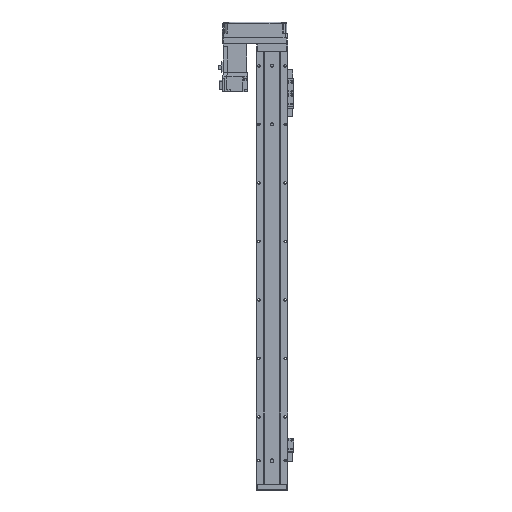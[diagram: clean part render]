
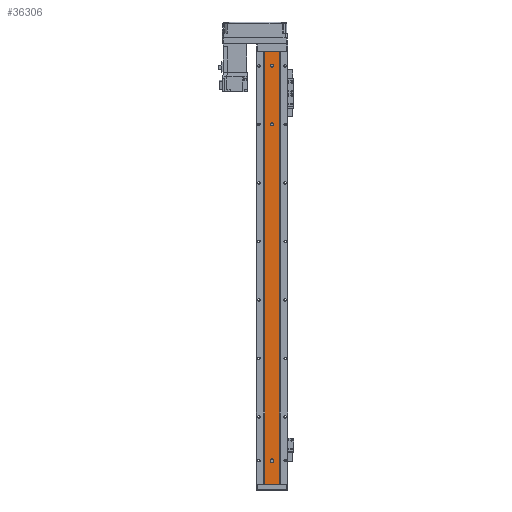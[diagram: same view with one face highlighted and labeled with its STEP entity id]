
A CAD part, front view. The second image highlights one B-rep face of the part: STEP entity #36306.
In plain terms, the highlighted planar face has unit normal (0, -1, 0).
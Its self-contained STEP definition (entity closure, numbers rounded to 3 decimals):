
#478 = LINE ( 'NONE', #34319, #35970 ) ;
#776 = ORIENTED_EDGE ( 'NONE', *, *, #26198, .F. ) ;
#1156 = ORIENTED_EDGE ( 'NONE', *, *, #15613, .T. ) ;
#1270 = ORIENTED_EDGE ( 'NONE', *, *, #33917, .F. ) ;
#1687 = ORIENTED_EDGE ( 'NONE', *, *, #11763, .F. ) ;
#1861 = DIRECTION ( 'NONE',  ( 0., 0., 1. ) ) ;
#2000 = CARTESIAN_POINT ( 'NONE',  ( -2.5, 1.5, -740. ) ) ;
#2157 = ORIENTED_EDGE ( 'NONE', *, *, #2613, .F. ) ;
#2579 = AXIS2_PLACEMENT_3D ( 'NONE', #34626, #31559, #10809 ) ;
#2601 = VECTOR ( 'NONE', #1861, 1000. ) ;
#2613 = EDGE_CURVE ( 'NONE', #5761, #14020, #34740, .T. ) ;
#2667 = DIRECTION ( 'NONE',  ( 0., 0., 1. ) ) ;
#3171 = EDGE_CURVE ( 'NONE', #38402, #9386, #33259, .T. ) ;
#4470 = DIRECTION ( 'NONE',  ( 0., 0., 1. ) ) ;
#4686 = VERTEX_POINT ( 'NONE', #9881 ) ;
#4912 = CARTESIAN_POINT ( 'NONE',  ( 12.293, 1.5, -740. ) ) ;
#5348 = AXIS2_PLACEMENT_3D ( 'NONE', #16157, #21744, #24651 ) ;
#5761 = VERTEX_POINT ( 'NONE', #8865 ) ;
#5803 = VECTOR ( 'NONE', #34135, 1000. ) ;
#6077 = CARTESIAN_POINT ( 'NONE',  ( 2.5, 1.5, -740. ) ) ;
#7569 = EDGE_LOOP ( 'NONE', ( #2157, #1270, #776, #1687 ) ) ;
#8865 = CARTESIAN_POINT ( 'NONE',  ( -2.5, 1.5, -701. ) ) ;
#8946 = AXIS2_PLACEMENT_3D ( 'NONE', #28489, #10340, #25923 ) ;
#8952 = DIRECTION ( 'NONE',  ( 1., 0., 0. ) ) ;
#9264 = VECTOR ( 'NONE', #10834, 1000. ) ;
#9281 = ORIENTED_EDGE ( 'NONE', *, *, #3171, .F. ) ;
#9386 = VERTEX_POINT ( 'NONE', #38652 ) ;
#9656 = FACE_OUTER_BOUND ( 'NONE', #35512, .T. ) ;
#9881 = CARTESIAN_POINT ( 'NONE',  ( 2.5, 1.5, -699. ) ) ;
#10119 = CIRCLE ( 'NONE', #36976, 2.5 ) ;
#10131 = EDGE_LOOP ( 'NONE', ( #30624, #28933 ) ) ;
#10201 = LINE ( 'NONE', #2000, #9264 ) ;
#10340 = DIRECTION ( 'NONE',  ( 0., -1., 0. ) ) ;
#10809 = DIRECTION ( 'NONE',  ( 1., 0., 0. ) ) ;
#10834 = DIRECTION ( 'NONE',  ( 0., 0., -1. ) ) ;
#11415 = AXIS2_PLACEMENT_3D ( 'NONE', #17900, #24002, #8952 ) ;
#11595 = VERTEX_POINT ( 'NONE', #4912 ) ;
#11763 = EDGE_CURVE ( 'NONE', #14020, #4686, #34487, .T. ) ;
#12055 = CARTESIAN_POINT ( 'NONE',  ( -2.5, 1.5, -125. ) ) ;
#12886 = CIRCLE ( 'NONE', #2579, 2.5 ) ;
#13848 = VERTEX_POINT ( 'NONE', #28761 ) ;
#14020 = VERTEX_POINT ( 'NONE', #39128 ) ;
#14090 = VECTOR ( 'NONE', #27308, 1000. ) ;
#14794 = EDGE_CURVE ( 'NONE', #13848, #38402, #478, .T. ) ;
#14851 = PLANE ( 'NONE',  #11415 ) ;
#15160 = VERTEX_POINT ( 'NONE', #35974 ) ;
#15613 = EDGE_CURVE ( 'NONE', #11595, #9386, #21941, .T. ) ;
#16157 = CARTESIAN_POINT ( 'NONE',  ( 0., 1.5, -25. ) ) ;
#16440 = CARTESIAN_POINT ( 'NONE',  ( -2.5, 1.5, -25. ) ) ;
#17408 = CIRCLE ( 'NONE', #5348, 2.5 ) ;
#17411 = CARTESIAN_POINT ( 'NONE',  ( 12.293, 1.5, -740. ) ) ;
#17678 = FACE_BOUND ( 'NONE', #10131, .T. ) ;
#17747 = CARTESIAN_POINT ( 'NONE',  ( -12.293, 1.5, 0. ) ) ;
#17888 = VECTOR ( 'NONE', #2667, 1000. ) ;
#17900 = CARTESIAN_POINT ( 'NONE',  ( 12.293, 1.5, -740. ) ) ;
#18141 = FACE_BOUND ( 'NONE', #33126, .T. ) ;
#20287 = VERTEX_POINT ( 'NONE', #35009 ) ;
#21676 = CARTESIAN_POINT ( 'NONE',  ( 0., 1.5, -699. ) ) ;
#21744 = DIRECTION ( 'NONE',  ( 0., -1., 0. ) ) ;
#21941 = LINE ( 'NONE', #17411, #2601 ) ;
#22867 = EDGE_CURVE ( 'NONE', #20287, #37002, #38973, .T. ) ;
#23329 = EDGE_CURVE ( 'NONE', #26833, #15160, #12886, .T. ) ;
#23549 = CARTESIAN_POINT ( 'NONE',  ( 0., 1.5, -125. ) ) ;
#24002 = DIRECTION ( 'NONE',  ( 0., -1., 0. ) ) ;
#24651 = DIRECTION ( 'NONE',  ( 1., 0., 0. ) ) ;
#24841 = ORIENTED_EDGE ( 'NONE', *, *, #14794, .F. ) ;
#25392 = DIRECTION ( 'NONE',  ( 1., 0., 0. ) ) ;
#25923 = DIRECTION ( 'NONE',  ( 1., 0., 0. ) ) ;
#26198 = EDGE_CURVE ( 'NONE', #4686, #26625, #10119, .T. ) ;
#26585 = CARTESIAN_POINT ( 'NONE',  ( -2.5, 1.5, -699. ) ) ;
#26625 = VERTEX_POINT ( 'NONE', #26585 ) ;
#26640 = DIRECTION ( 'NONE',  ( 0., -1., 0. ) ) ;
#26833 = VERTEX_POINT ( 'NONE', #16440 ) ;
#27308 = DIRECTION ( 'NONE',  ( 1., 0., 0. ) ) ;
#27936 = DIRECTION ( 'NONE',  ( 0., -1., 0. ) ) ;
#28010 = CARTESIAN_POINT ( 'NONE',  ( 12.293, 1.5, -740. ) ) ;
#28489 = CARTESIAN_POINT ( 'NONE',  ( 0., 1.5, -125. ) ) ;
#28761 = CARTESIAN_POINT ( 'NONE',  ( -12.293, 1.5, -740. ) ) ;
#28933 = ORIENTED_EDGE ( 'NONE', *, *, #23329, .F. ) ;
#30624 = ORIENTED_EDGE ( 'NONE', *, *, #30938, .F. ) ;
#30938 = EDGE_CURVE ( 'NONE', #15160, #26833, #17408, .T. ) ;
#30972 = EDGE_CURVE ( 'NONE', #13848, #11595, #38666, .T. ) ;
#31559 = DIRECTION ( 'NONE',  ( 0., -1., 0. ) ) ;
#31724 = EDGE_CURVE ( 'NONE', #37002, #20287, #36044, .T. ) ;
#32388 = AXIS2_PLACEMENT_3D ( 'NONE', #33851, #27936, #25392 ) ;
#33088 = DIRECTION ( 'NONE',  ( 1., 0., 0. ) ) ;
#33126 = EDGE_LOOP ( 'NONE', ( #38226, #38731 ) ) ;
#33259 = LINE ( 'NONE', #34001, #5803 ) ;
#33632 = ORIENTED_EDGE ( 'NONE', *, *, #30972, .T. ) ;
#33718 = DIRECTION ( 'NONE',  ( 0., -1., 0. ) ) ;
#33851 = CARTESIAN_POINT ( 'NONE',  ( 0., 1.5, -701. ) ) ;
#33917 = EDGE_CURVE ( 'NONE', #26625, #5761, #10201, .T. ) ;
#34001 = CARTESIAN_POINT ( 'NONE',  ( 12.293, 1.5, 0. ) ) ;
#34135 = DIRECTION ( 'NONE',  ( 1., 0., 0. ) ) ;
#34319 = CARTESIAN_POINT ( 'NONE',  ( -12.293, 1.5, -740. ) ) ;
#34487 = LINE ( 'NONE', #6077, #17888 ) ;
#34626 = CARTESIAN_POINT ( 'NONE',  ( 0., 1.5, -25. ) ) ;
#34740 = CIRCLE ( 'NONE', #32388, 2.5 ) ;
#35009 = CARTESIAN_POINT ( 'NONE',  ( 2.5, 1.5, -125. ) ) ;
#35512 = EDGE_LOOP ( 'NONE', ( #9281, #24841, #33632, #1156 ) ) ;
#35970 = VECTOR ( 'NONE', #4470, 1000. ) ;
#35974 = CARTESIAN_POINT ( 'NONE',  ( 2.5, 1.5, -25. ) ) ;
#36044 = CIRCLE ( 'NONE', #8946, 2.5 ) ;
#36306 = ADVANCED_FACE ( 'NONE', ( #38940, #18141, #17678, #9656 ), #14851, .T. ) ;
#36976 = AXIS2_PLACEMENT_3D ( 'NONE', #21676, #33718, #36990 ) ;
#36990 = DIRECTION ( 'NONE',  ( 1., 0., 0. ) ) ;
#37002 = VERTEX_POINT ( 'NONE', #12055 ) ;
#38226 = ORIENTED_EDGE ( 'NONE', *, *, #22867, .F. ) ;
#38402 = VERTEX_POINT ( 'NONE', #17747 ) ;
#38652 = CARTESIAN_POINT ( 'NONE',  ( 12.293, 1.5, 0. ) ) ;
#38666 = LINE ( 'NONE', #28010, #14090 ) ;
#38692 = AXIS2_PLACEMENT_3D ( 'NONE', #23549, #26640, #33088 ) ;
#38731 = ORIENTED_EDGE ( 'NONE', *, *, #31724, .F. ) ;
#38940 = FACE_BOUND ( 'NONE', #7569, .T. ) ;
#38973 = CIRCLE ( 'NONE', #38692, 2.5 ) ;
#39128 = CARTESIAN_POINT ( 'NONE',  ( 2.5, 1.5, -701. ) ) ;
